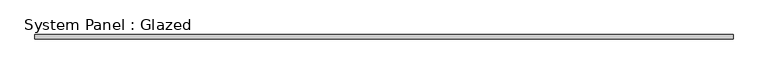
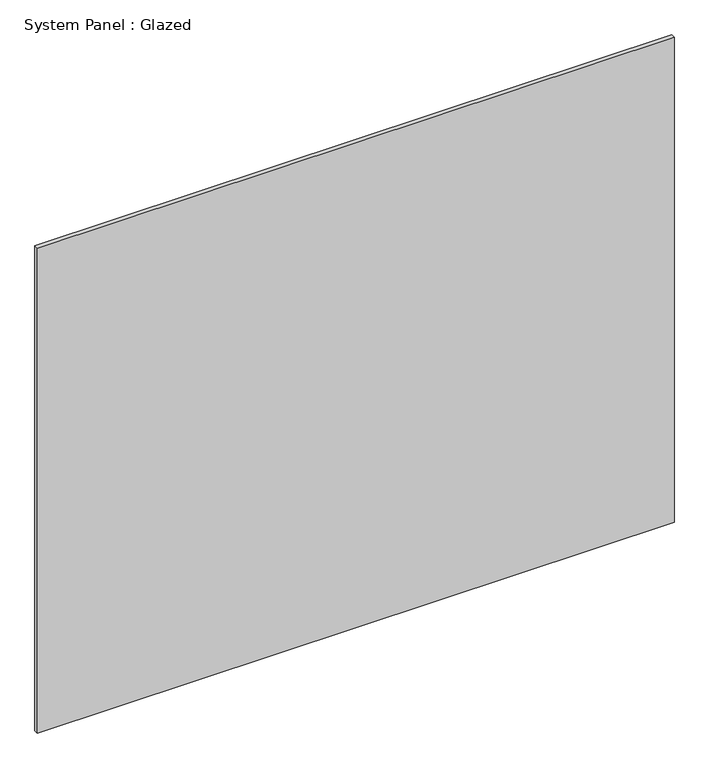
"""IFC4 building model written with IfcOpenShell, lengths in millimetres: plate geometry, System Panel : Glazed."""

from ifc_helpers import new_model, si_unit, origin, origin_with_axes, place, context, project, spatial, polyline, outline, extrude, source, transform, mapped, element, save


def system_panel_glazed_ab3d2984(model_context):
    return source(origin(), model_context, "Body", "SweptSolid", [
        extrude(outline(polyline([(1925.0, -49.5), (-1925.0, -49.5), (-1925.0, -24.5), (1925.0, -24.5), (1925.0, -49.5)])), origin_with_axes(), (0.0, 0.0, 1.0), 3100.0),
    ])


if __name__ == "__main__":
    model = new_model("IFC4")
    model_context = context("Model", 3, world=origin())
    ifc_project = project(units=[si_unit("LENGTHUNIT", "METRE", prefix="MILLI")], contexts=[model_context])
    site = spatial("IfcSite", under=ifc_project)
    building = spatial("IfcBuilding", under=site)
    placement = place(None, origin())
    system_panel_glazed_shape = system_panel_glazed_ab3d2984(model_context)
    element("IfcPlate", 1, ObjectType="System Panel : Glazed", at=placement, inside=building, context=model_context, shape_type="MappedRepresentation", body=[
        mapped(system_panel_glazed_shape, transform((0.0, 0.0, 0.0), x_axis=(1.0, 0.0, 0.0), y_axis=(0.0, 1.0, 0.0), z_axis=(0.0, 0.0, 1.0))),
    ])
    save(model, "model.ifc")
